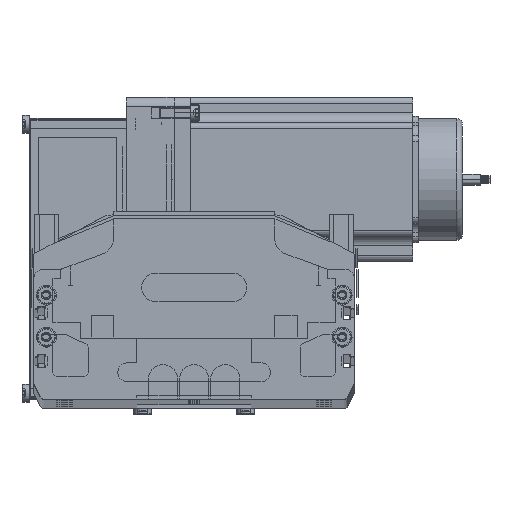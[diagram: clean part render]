
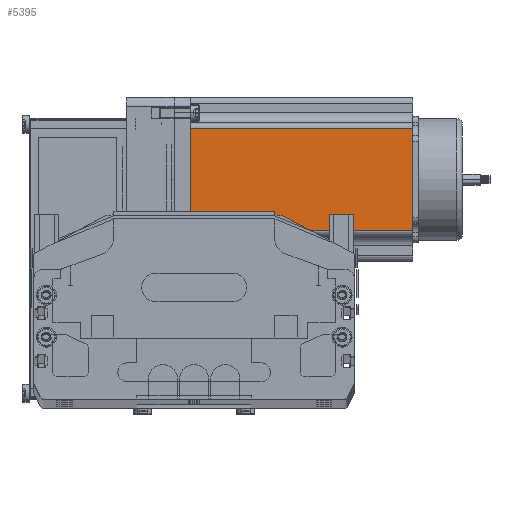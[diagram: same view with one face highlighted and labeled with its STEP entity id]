
A CAD part, top view. The second image highlights one B-rep face of the part: STEP entity #5395.
In plain terms, the highlighted planar face has unit normal (0, 0, 1) as drawn and (0, -1, 0) by its records, which use the part's own axes.
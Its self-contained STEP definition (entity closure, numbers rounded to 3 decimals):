
#5384 = ORIENTED_EDGE ( 'NONE', *, *, #5400, .T. ) ;
#5388 = VERTEX_POINT ( 'NONE', #41731 ) ;
#5390 = ORIENTED_EDGE ( 'NONE', *, *, #5450, .F. ) ;
#5391 = VERTEX_POINT ( 'NONE', #41690 ) ;
#5393 = EDGE_CURVE ( 'NONE', #5388, #5391, #41802, .T. ) ;
#5395 = ADVANCED_FACE ( 'NONE', ( #41764 ), #41538, .F. ) ;
#5396 = ORIENTED_EDGE ( 'NONE', *, *, #5398, .T. ) ;
#5397 = ORIENTED_EDGE ( 'NONE', *, *, #5393, .T. ) ;
#5398 = EDGE_CURVE ( 'NONE', #5391, #5401, #41733, .T. ) ;
#5400 = EDGE_CURVE ( 'NONE', #5451, #5388, #41756, .T. ) ;
#5401 = VERTEX_POINT ( 'NONE', #41537 ) ;
#5439 = EDGE_LOOP ( 'NONE', ( #5397, #5396, #5390, #5384 ) ) ;
#5450 = EDGE_CURVE ( 'NONE', #5451, #5401, #41482, .T. ) ;
#5451 = VERTEX_POINT ( 'NONE', #41820 ) ;
#41480 = CARTESIAN_POINT ( 'NONE',  ( 0., 0., 116.5 ) ) ;
#41482 = LINE ( 'NONE', #41480, #41818 ) ;
#41531 = DIRECTION ( 'NONE',  ( 0., 1., 0. ) ) ;
#41537 = CARTESIAN_POINT ( 'NONE',  ( 69.74, 0., 116.5 ) ) ;
#41538 = PLANE ( 'NONE',  #41730 ) ;
#41539 = DIRECTION ( 'NONE',  ( 1., 0., 0. ) ) ;
#41541 = VECTOR ( 'NONE', #41539, 1000. ) ;
#41677 = DIRECTION ( 'NONE',  ( 0., 0., 1. ) ) ;
#41678 = VECTOR ( 'NONE', #41677, 1000. ) ;
#41682 = CARTESIAN_POINT ( 'NONE',  ( 69.74, 0., 116.5 ) ) ;
#41690 = CARTESIAN_POINT ( 'NONE',  ( 69.74, 0., 0. ) ) ;
#41730 = AXIS2_PLACEMENT_3D ( 'NONE', #41743, #41531, #41732 ) ;
#41731 = CARTESIAN_POINT ( 'NONE',  ( 16.16, 0., 0. ) ) ;
#41732 = DIRECTION ( 'NONE',  ( 0., 0., 1. ) ) ;
#41733 = LINE ( 'NONE', #41682, #41678 ) ;
#41743 = CARTESIAN_POINT ( 'NONE',  ( 0., 0., 116.5 ) ) ;
#41753 = DIRECTION ( 'NONE',  ( 0., 0., -1. ) ) ;
#41754 = VECTOR ( 'NONE', #41753, 1000. ) ;
#41755 = CARTESIAN_POINT ( 'NONE',  ( 16.16, 0., 116.5 ) ) ;
#41756 = LINE ( 'NONE', #41755, #41754 ) ;
#41764 = FACE_OUTER_BOUND ( 'NONE', #5439, .T. ) ;
#41801 = CARTESIAN_POINT ( 'NONE',  ( 0., 0., 0. ) ) ;
#41802 = LINE ( 'NONE', #41801, #41541 ) ;
#41807 = DIRECTION ( 'NONE',  ( 1., 0., 0. ) ) ;
#41818 = VECTOR ( 'NONE', #41807, 1000. ) ;
#41820 = CARTESIAN_POINT ( 'NONE',  ( 16.16, 0., 116.5 ) ) ;
